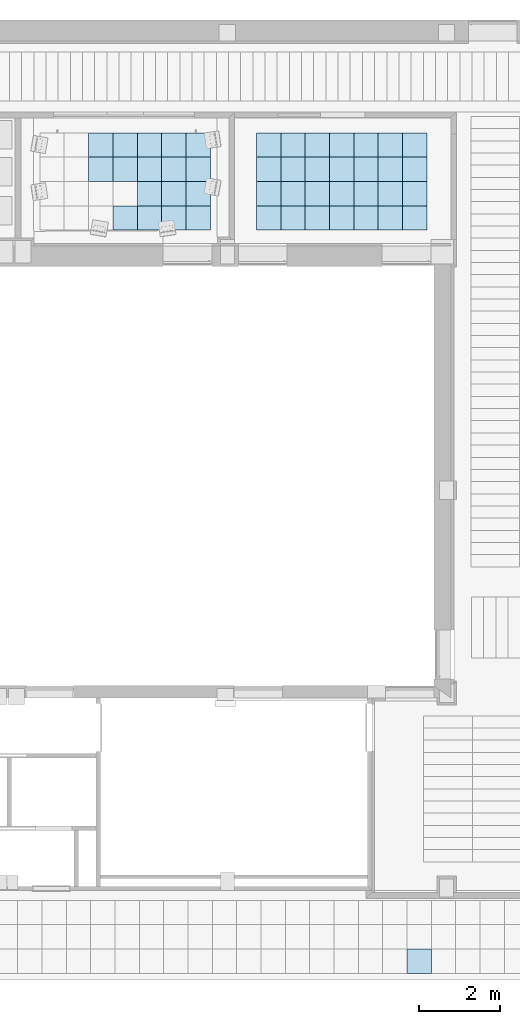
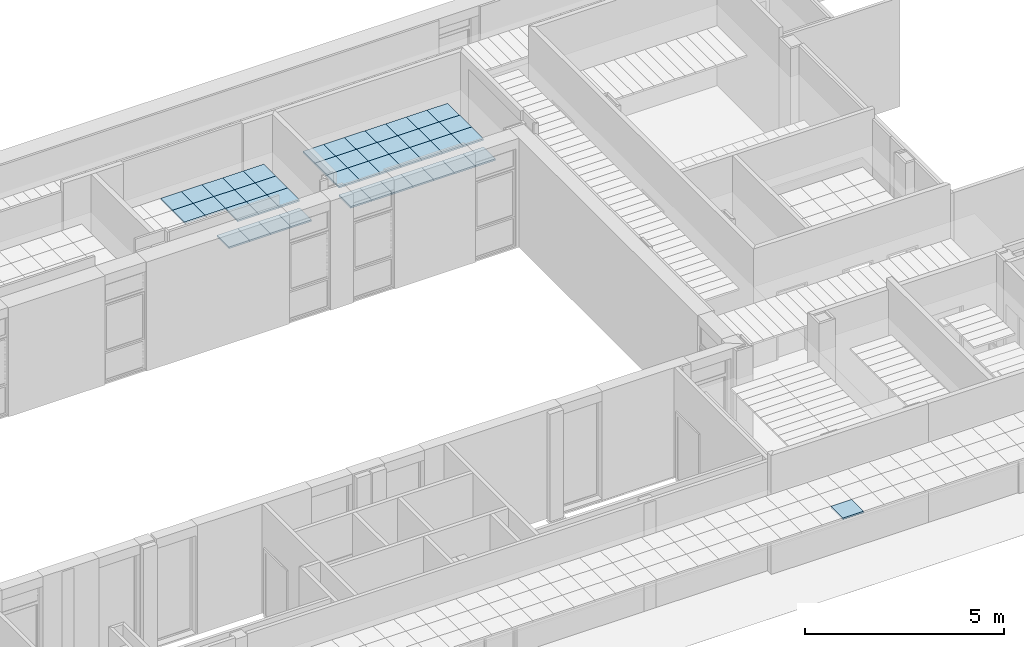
# One storey, part 19 of 60: 46 slabs.
"""IFC2X3 building model written with IfcOpenShell, lengths in millimetres."""

from ifc_helpers import new_model, entity, si_unit, converted_unit, derived_unit, money_unit, direction, frame, origin_with_axes, place, context, subcontext, project, spatial, polyline, outline, extrude, material, layer, layer_set, layer_usage, type_object, element, save


model = new_model("IFC2X3")

# Units and contexts
model_context = context("Model", 3, precision=0.01, world=origin_with_axes(), true_north=direction((0.0, 1.0)))
body_context = subcontext(model_context, "Body", "Model", "MODEL_VIEW")
ifc_project = project(units=[si_unit("LENGTHUNIT", "METRE", prefix="MILLI"), si_unit("AREAUNIT", "SQUARE_METRE"), si_unit("VOLUMEUNIT", "CUBIC_METRE"), converted_unit("PLANEANGLEUNIT", "DEGREE", entity("IfcPlaneAngleMeasure", 0.0174532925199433), si_unit("PLANEANGLEUNIT", "RADIAN"), dimensions=[0, 0, 0, 0, 0, 0, 0]), money_unit("USD"), converted_unit("TIMEUNIT", "Year", entity("IfcTimeMeasure", 31557600.0), si_unit("TIMEUNIT", "SECOND"), dimensions=[0, 0, 1, 0, 0, 0, 0]), si_unit("MASSUNIT", "GRAM", prefix="KILO"), si_unit("THERMODYNAMICTEMPERATUREUNIT", "DEGREE_CELSIUS"), si_unit("LUMINOUSINTENSITYUNIT", "LUMEN"), si_unit("ENERGYUNIT", "JOULE", prefix="MEGA"), derived_unit("THERMALCONDUCTANCEUNIT", [(si_unit("POWERUNIT", "WATT"), 1), (si_unit("LENGTHUNIT", "METRE"), -1), (si_unit("THERMODYNAMICTEMPERATUREUNIT", "KELVIN"), -1)]), derived_unit("SPECIFICHEATCAPACITYUNIT", [(si_unit("ENERGYUNIT", "JOULE"), 1), (si_unit("MASSUNIT", "GRAM", prefix="KILO"), -1), (si_unit("THERMODYNAMICTEMPERATUREUNIT", "KELVIN"), -1)]), derived_unit("MASSDENSITYUNIT", [(si_unit("MASSUNIT", "GRAM", prefix="KILO"), 1), (si_unit("VOLUMEUNIT", "CUBIC_METRE"), -1)])], contexts=[model_context])

# Site, building, storey
site_placement = place(None, origin_with_axes())
site = spatial("IfcSite", under=ifc_project, at=site_placement, Name="Sitio", CompositionType="ELEMENT")
building_placement = place(site_placement, origin_with_axes())
building = spatial("IfcBuilding", under=site, at=building_placement, Name="Construcción", CompositionType="ELEMENT")
storey_placement = place(building_placement, frame((0.0, 0.0, 3650.0), z_axis=(0.0, 0.0, 1.0), x_axis=(1.0, 0.0, 0.0)))
storey = spatial("IfcBuildingStorey", under=building, at=storey_placement, Name="PLANTA 2ª", CompositionType="ELEMENT", Elevation=3650.0)

# Slabs
ifc_material = material(Name="ARQ_CE217_Armstrong 60x60")
ifc_layer = layer(ifc_material, 50.0, ventilated="UNKNOWN")
ifc_layer_set = layer_set([ifc_layer], Name="ARQ_CE217_Armstrong 60x60 50")
ifc_layer_usage_1 = layer_usage(ifc_layer_set, "AXIS3", "NEGATIVE", 50.0)
slab_type = type_object("IfcSlabType", Name="ARQ_CE217_Armstrong 60x60 50", PredefinedType="NOTDEFINED")
slab_1_placement = place(storey_placement, frame((-8820.107268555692, -200.7462075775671, 2500.0), z_axis=(0.0, 0.0, 1.0), x_axis=(1.0, 0.0, 0.0)))
element("IfcSlab", 1, at=slab_1_placement, inside=storey, type_object=slab_type, material=ifc_layer_usage_1, Name="SLA - 026", PredefinedType="NOTDEFINED", context=body_context, shape_type="SweptSolid", body=[
    extrude(outline(polyline([(0.0, 0.0), (599.9999999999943, 0.0), (599.9999999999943, 600.0000000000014), (0.0, 600.0000000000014), (0.0, 0.0)])), frame((0.0, 0.0, -50.0), z_axis=(0.0, 0.0, 1.0), x_axis=(1.0, 0.0, 0.0)), (0.0, 0.0, 1.0), 50.0),
])
ifc_layer_usage_2 = layer_usage(ifc_layer_set, "AXIS3", "NEGATIVE", 50.0)
slab_2_placement = place(storey_placement, frame((-8220.107268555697, -800.7462075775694, 2250.0), z_axis=(0.0, 0.0, 1.0), x_axis=(1.0, 0.0, 0.0)))
element("IfcSlab", 2, at=slab_2_placement, inside=storey, type_object=slab_type, material=ifc_layer_usage_2, Name="SLA - 026", PredefinedType="NOTDEFINED", context=body_context, shape_type="SweptSolid", body=[
    extrude(outline(polyline([(0.0, 0.0), (600.0000000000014, 0.0), (600.0000000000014, 600.0000000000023), (0.0, 600.0000000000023), (0.0, 0.0)])), frame((0.0, 0.0, -50.0), z_axis=(0.0, 0.0, 1.0), x_axis=(1.0, 0.0, 0.0)), (0.0, 0.0, 1.0), 50.0),
])
ifc_layer_usage_3 = layer_usage(ifc_layer_set, "AXIS3", "NEGATIVE", 50.0)
slab_3_placement = place(storey_placement, frame((-9420.107268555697, 399.2537924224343, 2500.0), z_axis=(0.0, 0.0, 1.0), x_axis=(1.0, 0.0, 0.0)))
element("IfcSlab", 3, at=slab_3_placement, inside=storey, type_object=slab_type, material=ifc_layer_usage_3, Name="SLA - 026", PredefinedType="NOTDEFINED", context=body_context, shape_type="SweptSolid", body=[
    extrude(outline(polyline([(0.0, 0.0), (600.000000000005, 0.0), (600.000000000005, 599.9999999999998), (0.0, 599.9999999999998), (0.0, 0.0)])), frame((0.0, 0.0, -50.0), z_axis=(0.0, 0.0, 1.0), x_axis=(1.0, 0.0, 0.0)), (0.0, 0.0, 1.0), 50.0),
])
ifc_layer_usage_4 = layer_usage(ifc_layer_set, "AXIS3", "NEGATIVE", 50.0)
slab_4_placement = place(storey_placement, frame((-9420.107268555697, -800.7462075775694, 2250.0), z_axis=(0.0, 0.0, 1.0), x_axis=(1.0, 0.0, 0.0)))
element("IfcSlab", 4, at=slab_4_placement, inside=storey, type_object=slab_type, material=ifc_layer_usage_4, Name="SLA - 026", PredefinedType="NOTDEFINED", context=body_context, shape_type="SweptSolid", body=[
    extrude(outline(polyline([(0.0, 0.0), (600.000000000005, 0.0), (600.000000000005, 600.0000000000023), (0.0, 600.0000000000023), (0.0, 0.0)])), frame((0.0, 0.0, -50.0), z_axis=(0.0, 0.0, 1.0), x_axis=(1.0, 0.0, 0.0)), (0.0, 0.0, 1.0), 50.0),
])
ifc_layer_usage_5 = layer_usage(ifc_layer_set, "AXIS3", "NEGATIVE", 50.0)
slab_5_placement = place(storey_placement, frame((-8220.107268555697, -200.7462075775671, 2500.0), z_axis=(0.0, 0.0, 1.0), x_axis=(1.0, 0.0, 0.0)))
element("IfcSlab", 5, at=slab_5_placement, inside=storey, type_object=slab_type, material=ifc_layer_usage_5, Name="SLA - 026", PredefinedType="NOTDEFINED", context=body_context, shape_type="SweptSolid", body=[
    extrude(outline(polyline([(0.0, 0.0), (600.0000000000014, 0.0), (600.0000000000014, 600.0000000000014), (0.0, 600.0000000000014), (0.0, 0.0)])), frame((0.0, 0.0, -50.0), z_axis=(0.0, 0.0, 1.0), x_axis=(1.0, 0.0, 0.0)), (0.0, 0.0, 1.0), 50.0),
])
ifc_layer_usage_6 = layer_usage(ifc_layer_set, "AXIS3", "NEGATIVE", 50.0)
slab_6_placement = place(storey_placement, frame((-8820.107268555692, 399.2537924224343, 2500.0), z_axis=(0.0, 0.0, 1.0), x_axis=(1.0, 0.0, 0.0)))
element("IfcSlab", 6, at=slab_6_placement, inside=storey, type_object=slab_type, material=ifc_layer_usage_6, Name="SLA - 026", PredefinedType="NOTDEFINED", context=body_context, shape_type="SweptSolid", body=[
    extrude(outline(polyline([(0.0, 0.0), (599.9999999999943, 0.0), (599.9999999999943, 599.9999999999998), (0.0, 599.9999999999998), (0.0, 0.0)])), frame((0.0, 0.0, -50.0), z_axis=(0.0, 0.0, 1.0), x_axis=(1.0, 0.0, 0.0)), (0.0, 0.0, 1.0), 50.0),
])
ifc_layer_usage_7 = layer_usage(ifc_layer_set, "AXIS3", "NEGATIVE", 50.0)
slab_7_placement = place(storey_placement, frame((-8220.107268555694, 999.2537924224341, 2500.0), z_axis=(0.0, 0.0, 1.0), x_axis=(1.0, 0.0, 0.0)))
element("IfcSlab", 7, at=slab_7_placement, inside=storey, type_object=slab_type, material=ifc_layer_usage_7, Name="SLA - 026", PredefinedType="NOTDEFINED", context=body_context, shape_type="SweptSolid", body=[
    extrude(outline(polyline([(0.0, 0.0), (600.0000000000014, 0.0), (600.0000000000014, 600.0000000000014), (0.0, 600.0000000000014), (0.0, 0.0)])), frame((0.0, 0.0, -50.0), z_axis=(0.0, 0.0, 1.0), x_axis=(1.0, 0.0, 0.0)), (0.0, 0.0, 1.0), 50.0),
])
ifc_layer_usage_8 = layer_usage(ifc_layer_set, "AXIS3", "NEGATIVE", 50.0)
slab_8_placement = place(storey_placement, frame((-8820.107268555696, 999.2537924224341, 2500.0), z_axis=(0.0, 0.0, 1.0), x_axis=(1.0, 0.0, 0.0)))
element("IfcSlab", 8, at=slab_8_placement, inside=storey, type_object=slab_type, material=ifc_layer_usage_8, Name="SLA - 026", PredefinedType="NOTDEFINED", context=body_context, shape_type="SweptSolid", body=[
    extrude(outline(polyline([(0.0, 0.0), (600.0000000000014, 0.0), (600.0000000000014, 600.0000000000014), (0.0, 600.0000000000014), (0.0, 0.0)])), frame((0.0, 0.0, -50.0), z_axis=(0.0, 0.0, 1.0), x_axis=(1.0, 0.0, 0.0)), (0.0, 0.0, 1.0), 50.0),
])
ifc_layer_usage_9 = layer_usage(ifc_layer_set, "AXIS3", "NEGATIVE", 50.0)
slab_9_placement = place(storey_placement, frame((-8220.107268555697, 399.2537924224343, 2500.0), z_axis=(0.0, 0.0, 1.0), x_axis=(1.0, 0.0, 0.0)))
element("IfcSlab", 9, at=slab_9_placement, inside=storey, type_object=slab_type, material=ifc_layer_usage_9, Name="SLA - 026", PredefinedType="NOTDEFINED", context=body_context, shape_type="SweptSolid", body=[
    extrude(outline(polyline([(0.0, 0.0), (600.0000000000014, 0.0), (600.0000000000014, 599.9999999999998), (0.0, 599.9999999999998), (0.0, 0.0)])), frame((0.0, 0.0, -50.0), z_axis=(0.0, 0.0, 1.0), x_axis=(1.0, 0.0, 0.0)), (0.0, 0.0, 1.0), 50.0),
])
ifc_layer_usage_10 = layer_usage(ifc_layer_set, "AXIS3", "NEGATIVE", 50.0)
slab_10_placement = place(storey_placement, frame((-9420.107268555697, 999.2537924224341, 2500.0), z_axis=(0.0, 0.0, 1.0), x_axis=(1.0, 0.0, 0.0)))
element("IfcSlab", 10, at=slab_10_placement, inside=storey, type_object=slab_type, material=ifc_layer_usage_10, Name="SLA - 026", PredefinedType="NOTDEFINED", context=body_context, shape_type="SweptSolid", body=[
    extrude(outline(polyline([(0.0, 0.0), (600.0000000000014, 0.0), (600.0000000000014, 600.0000000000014), (0.0, 600.0000000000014), (0.0, 0.0)])), frame((0.0, 0.0, -50.0), z_axis=(0.0, 0.0, 1.0), x_axis=(1.0, 0.0, 0.0)), (0.0, 0.0, 1.0), 50.0),
])
ifc_layer_usage_11 = layer_usage(ifc_layer_set, "AXIS3", "NEGATIVE", 50.0)
slab_11_placement = place(storey_placement, frame((-9420.107268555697, -200.7462075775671, 2500.0), z_axis=(0.0, 0.0, 1.0), x_axis=(1.0, 0.0, 0.0)))
element("IfcSlab", 11, at=slab_11_placement, inside=storey, type_object=slab_type, material=ifc_layer_usage_11, Name="SLA - 026", PredefinedType="NOTDEFINED", context=body_context, shape_type="SweptSolid", body=[
    extrude(outline(polyline([(0.0, 0.0), (600.000000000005, 0.0), (600.000000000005, 600.0000000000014), (0.0, 600.0000000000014), (0.0, 0.0)])), frame((0.0, 0.0, -50.0), z_axis=(0.0, 0.0, 1.0), x_axis=(1.0, 0.0, 0.0)), (0.0, 0.0, 1.0), 50.0),
])
ifc_layer_usage_12 = layer_usage(ifc_layer_set, "AXIS3", "NEGATIVE", 50.0)
slab_12_placement = place(storey_placement, frame((-10020.10726855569, 999.2537924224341, 2500.0), z_axis=(0.0, 0.0, 1.0), x_axis=(1.0, 0.0, 0.0)))
element("IfcSlab", 12, at=slab_12_placement, inside=storey, type_object=slab_type, material=ifc_layer_usage_12, Name="SLA - 026", PredefinedType="NOTDEFINED", context=body_context, shape_type="SweptSolid", body=[
    extrude(outline(polyline([(0.0, 0.0), (600.0000000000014, 0.0), (600.0000000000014, 600.0000000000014), (0.0, 600.0000000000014), (0.0, 0.0)])), frame((0.0, 0.0, -50.0), z_axis=(0.0, 0.0, 1.0), x_axis=(1.0, 0.0, 0.0)), (0.0, 0.0, 1.0), 50.0),
])
ifc_layer_usage_13 = layer_usage(ifc_layer_set, "AXIS3", "NEGATIVE", 50.0)
slab_13_placement = place(storey_placement, frame((-10020.1072685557, -800.7462075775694, 2250.0), z_axis=(0.0, 0.0, 1.0), x_axis=(1.0, 0.0, 0.0)))
element("IfcSlab", 13, at=slab_13_placement, inside=storey, type_object=slab_type, material=ifc_layer_usage_13, Name="SLA - 026", PredefinedType="NOTDEFINED", context=body_context, shape_type="SweptSolid", body=[
    extrude(outline(polyline([(0.0, 0.0), (600.0000000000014, 0.0), (600.0000000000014, 600.0000000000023), (0.0, 600.0000000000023), (0.0, 0.0)])), frame((0.0, 0.0, -50.0), z_axis=(0.0, 0.0, 1.0), x_axis=(1.0, 0.0, 0.0)), (0.0, 0.0, 1.0), 50.0),
])
ifc_layer_usage_14 = layer_usage(ifc_layer_set, "AXIS3", "NEGATIVE", 50.0)
slab_14_placement = place(storey_placement, frame((-10620.1072685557, 999.2537924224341, 2500.0), z_axis=(0.0, 0.0, 1.0), x_axis=(1.0, 0.0, 0.0)))
element("IfcSlab", 14, at=slab_14_placement, inside=storey, type_object=slab_type, material=ifc_layer_usage_14, Name="SLA - 026", PredefinedType="NOTDEFINED", context=body_context, shape_type="SweptSolid", body=[
    extrude(outline(polyline([(0.0, 0.0), (600.0000000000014, 0.0), (600.0000000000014, 600.0000000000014), (0.0, 600.0000000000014), (0.0, 0.0)])), frame((0.0, 0.0, -50.0), z_axis=(0.0, 0.0, 1.0), x_axis=(1.0, 0.0, 0.0)), (0.0, 0.0, 1.0), 50.0),
])
ifc_layer_usage_15 = layer_usage(ifc_layer_set, "AXIS3", "NEGATIVE", 50.0)
slab_15_placement = place(storey_placement, frame((-8820.107268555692, -800.7462075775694, 2250.0), z_axis=(0.0, 0.0, 1.0), x_axis=(1.0, 0.0, 0.0)))
element("IfcSlab", 15, at=slab_15_placement, inside=storey, type_object=slab_type, material=ifc_layer_usage_15, Name="SLA - 026", PredefinedType="NOTDEFINED", context=body_context, shape_type="SweptSolid", body=[
    extrude(outline(polyline([(0.0, 0.0), (599.9999999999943, 0.0), (599.9999999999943, 600.0000000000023), (0.0, 600.0000000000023), (0.0, 0.0)])), frame((0.0, 0.0, -50.0), z_axis=(0.0, 0.0, 1.0), x_axis=(1.0, 0.0, 0.0)), (0.0, 0.0, 1.0), 50.0),
])
ifc_layer_usage_16 = layer_usage(ifc_layer_set, "AXIS3", "NEGATIVE", 50.0)
slab_16_placement = place(storey_placement, frame((-10020.1072685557, 399.2537924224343, 2500.0), z_axis=(0.0, 0.0, 1.0), x_axis=(1.0, 0.0, 0.0)))
element("IfcSlab", 16, at=slab_16_placement, inside=storey, type_object=slab_type, material=ifc_layer_usage_16, Name="SLA - 026", PredefinedType="NOTDEFINED", context=body_context, shape_type="SweptSolid", body=[
    extrude(outline(polyline([(0.0, 0.0), (600.0000000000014, 0.0), (600.0000000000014, 599.9999999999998), (0.0, 599.9999999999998), (0.0, 0.0)])), frame((0.0, 0.0, -50.0), z_axis=(0.0, 0.0, 1.0), x_axis=(1.0, 0.0, 0.0)), (0.0, 0.0, 1.0), 50.0),
])
ifc_layer_usage_17 = layer_usage(ifc_layer_set, "AXIS3", "NEGATIVE", 50.0)
slab_17_placement = place(storey_placement, frame((-10620.10726855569, 399.2537924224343, 2500.0), z_axis=(0.0, 0.0, 1.0), x_axis=(1.0, 0.0, 0.0)))
element("IfcSlab", 17, at=slab_17_placement, inside=storey, type_object=slab_type, material=ifc_layer_usage_17, Name="SLA - 026", PredefinedType="NOTDEFINED", context=body_context, shape_type="SweptSolid", body=[
    extrude(outline(polyline([(0.0, 0.0), (599.9999999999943, 0.0), (599.9999999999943, 599.9999999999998), (0.0, 599.9999999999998), (0.0, 0.0)])), frame((0.0, 0.0, -50.0), z_axis=(0.0, 0.0, 1.0), x_axis=(1.0, 0.0, 0.0)), (0.0, 0.0, 1.0), 50.0),
])
ifc_layer_usage_18 = layer_usage(ifc_layer_set, "AXIS3", "NEGATIVE", 50.0)
slab_18_placement = place(storey_placement, frame((-4080.493150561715, -800.7462075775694, 2250.0), z_axis=(0.0, 0.0, 1.0), x_axis=(1.0, 0.0, 0.0)))
element("IfcSlab", 18, at=slab_18_placement, inside=storey, type_object=slab_type, material=ifc_layer_usage_18, Name="SLA - 026", PredefinedType="NOTDEFINED", context=body_context, shape_type="SweptSolid", body=[
    extrude(outline(polyline([(0.0, 0.0), (600.000000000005, 0.0), (600.000000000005, 600.0000000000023), (0.0, 600.0000000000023), (0.0, 0.0)])), frame((0.0, 0.0, -50.0), z_axis=(0.0, 0.0, 1.0), x_axis=(1.0, 0.0, 0.0)), (0.0, 0.0, 1.0), 50.0),
])
ifc_layer_usage_19 = layer_usage(ifc_layer_set, "AXIS3", "NEGATIVE", 50.0)
slab_19_placement = place(storey_placement, frame((-2880.493150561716, -200.7462075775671, 2500.0), z_axis=(0.0, 0.0, 1.0), x_axis=(1.0, 0.0, 0.0)))
element("IfcSlab", 19, at=slab_19_placement, inside=storey, type_object=slab_type, material=ifc_layer_usage_19, Name="SLA - 026", PredefinedType="NOTDEFINED", context=body_context, shape_type="SweptSolid", body=[
    extrude(outline(polyline([(0.0, 0.0), (600.0000000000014, 0.0), (600.0000000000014, 600.0000000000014), (0.0, 600.0000000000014), (0.0, 0.0)])), frame((0.0, 0.0, -50.0), z_axis=(0.0, 0.0, 1.0), x_axis=(1.0, 0.0, 0.0)), (0.0, 0.0, 1.0), 50.0),
])
ifc_layer_usage_20 = layer_usage(ifc_layer_set, "AXIS3", "NEGATIVE", 50.0)
slab_20_placement = place(storey_placement, frame((-2880.493150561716, -800.7462075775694, 2250.0), z_axis=(0.0, 0.0, 1.0), x_axis=(1.0, 0.0, 0.0)))
element("IfcSlab", 20, at=slab_20_placement, inside=storey, type_object=slab_type, material=ifc_layer_usage_20, Name="SLA - 026", PredefinedType="NOTDEFINED", context=body_context, shape_type="SweptSolid", body=[
    extrude(outline(polyline([(0.0, 0.0), (600.0000000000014, 0.0), (600.0000000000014, 600.0000000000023), (0.0, 600.0000000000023), (0.0, 0.0)])), frame((0.0, 0.0, -50.0), z_axis=(0.0, 0.0, 1.0), x_axis=(1.0, 0.0, 0.0)), (0.0, 0.0, 1.0), 50.0),
])
ifc_layer_usage_21 = layer_usage(ifc_layer_set, "AXIS3", "NEGATIVE", 50.0)
slab_21_placement = place(storey_placement, frame((-2880.493150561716, 399.2537924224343, 2500.0), z_axis=(0.0, 0.0, 1.0), x_axis=(1.0, 0.0, 0.0)))
element("IfcSlab", 21, at=slab_21_placement, inside=storey, type_object=slab_type, material=ifc_layer_usage_21, Name="SLA - 026", PredefinedType="NOTDEFINED", context=body_context, shape_type="SweptSolid", body=[
    extrude(outline(polyline([(0.0, 0.0), (600.0000000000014, 0.0), (600.0000000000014, 599.9999999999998), (0.0, 599.9999999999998), (0.0, 0.0)])), frame((0.0, 0.0, -50.0), z_axis=(0.0, 0.0, 1.0), x_axis=(1.0, 0.0, 0.0)), (0.0, 0.0, 1.0), 50.0),
])
ifc_layer_usage_22 = layer_usage(ifc_layer_set, "AXIS3", "NEGATIVE", 50.0)
slab_22_placement = place(storey_placement, frame((-4680.493150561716, -800.7462075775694, 2250.0), z_axis=(0.0, 0.0, 1.0), x_axis=(1.0, 0.0, 0.0)))
element("IfcSlab", 22, at=slab_22_placement, inside=storey, type_object=slab_type, material=ifc_layer_usage_22, Name="SLA - 026", PredefinedType="NOTDEFINED", context=body_context, shape_type="SweptSolid", body=[
    extrude(outline(polyline([(0.0, 0.0), (600.0000000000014, 0.0), (600.0000000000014, 600.0000000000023), (0.0, 600.0000000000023), (0.0, 0.0)])), frame((0.0, 0.0, -50.0), z_axis=(0.0, 0.0, 1.0), x_axis=(1.0, 0.0, 0.0)), (0.0, 0.0, 1.0), 50.0),
])
ifc_layer_usage_23 = layer_usage(ifc_layer_set, "AXIS3", "NEGATIVE", 50.0)
slab_23_placement = place(storey_placement, frame((-3480.49315056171, -800.7462075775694, 2250.0), z_axis=(0.0, 0.0, 1.0), x_axis=(1.0, 0.0, 0.0)))
element("IfcSlab", 23, at=slab_23_placement, inside=storey, type_object=slab_type, material=ifc_layer_usage_23, Name="SLA - 026", PredefinedType="NOTDEFINED", context=body_context, shape_type="SweptSolid", body=[
    extrude(outline(polyline([(0.0, 0.0), (599.9999999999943, 0.0), (599.9999999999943, 600.0000000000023), (0.0, 600.0000000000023), (0.0, 0.0)])), frame((0.0, 0.0, -50.0), z_axis=(0.0, 0.0, 1.0), x_axis=(1.0, 0.0, 0.0)), (0.0, 0.0, 1.0), 50.0),
])
ifc_layer_usage_24 = layer_usage(ifc_layer_set, "AXIS3", "NEGATIVE", 50.0)
slab_24_placement = place(storey_placement, frame((-4680.493150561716, 399.2537924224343, 2500.0), z_axis=(0.0, 0.0, 1.0), x_axis=(1.0, 0.0, 0.0)))
element("IfcSlab", 24, at=slab_24_placement, inside=storey, type_object=slab_type, material=ifc_layer_usage_24, Name="SLA - 026", PredefinedType="NOTDEFINED", context=body_context, shape_type="SweptSolid", body=[
    extrude(outline(polyline([(0.0, 0.0), (600.0000000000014, 0.0), (600.0000000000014, 599.9999999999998), (0.0, 599.9999999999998), (0.0, 0.0)])), frame((0.0, 0.0, -50.0), z_axis=(0.0, 0.0, 1.0), x_axis=(1.0, 0.0, 0.0)), (0.0, 0.0, 1.0), 50.0),
])
ifc_layer_usage_25 = layer_usage(ifc_layer_set, "AXIS3", "NEGATIVE", 50.0)
slab_25_placement = place(storey_placement, frame((-4680.493150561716, -200.7462075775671, 2500.0), z_axis=(0.0, 0.0, 1.0), x_axis=(1.0, 0.0, 0.0)))
element("IfcSlab", 25, at=slab_25_placement, inside=storey, type_object=slab_type, material=ifc_layer_usage_25, Name="SLA - 026", PredefinedType="NOTDEFINED", context=body_context, shape_type="SweptSolid", body=[
    extrude(outline(polyline([(0.0, 0.0), (600.0000000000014, 0.0), (600.0000000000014, 600.0000000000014), (0.0, 600.0000000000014), (0.0, 0.0)])), frame((0.0, 0.0, -50.0), z_axis=(0.0, 0.0, 1.0), x_axis=(1.0, 0.0, 0.0)), (0.0, 0.0, 1.0), 50.0),
])
ifc_layer_usage_26 = layer_usage(ifc_layer_set, "AXIS3", "NEGATIVE", 50.0)
slab_26_placement = place(storey_placement, frame((-3480.49315056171, -200.7462075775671, 2500.0), z_axis=(0.0, 0.0, 1.0), x_axis=(1.0, 0.0, 0.0)))
element("IfcSlab", 26, at=slab_26_placement, inside=storey, type_object=slab_type, material=ifc_layer_usage_26, Name="SLA - 026", PredefinedType="NOTDEFINED", context=body_context, shape_type="SweptSolid", body=[
    extrude(outline(polyline([(0.0, 0.0), (599.9999999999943, 0.0), (599.9999999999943, 600.0000000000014), (0.0, 600.0000000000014), (0.0, 0.0)])), frame((0.0, 0.0, -50.0), z_axis=(0.0, 0.0, 1.0), x_axis=(1.0, 0.0, 0.0)), (0.0, 0.0, 1.0), 50.0),
])
ifc_layer_usage_27 = layer_usage(ifc_layer_set, "AXIS3", "NEGATIVE", 50.0)
slab_27_placement = place(storey_placement, frame((-4080.493150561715, 399.2537924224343, 2500.0), z_axis=(0.0, 0.0, 1.0), x_axis=(1.0, 0.0, 0.0)))
element("IfcSlab", 27, at=slab_27_placement, inside=storey, type_object=slab_type, material=ifc_layer_usage_27, Name="SLA - 026", PredefinedType="NOTDEFINED", context=body_context, shape_type="SweptSolid", body=[
    extrude(outline(polyline([(0.0, 0.0), (600.000000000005, 0.0), (600.000000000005, 599.9999999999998), (0.0, 599.9999999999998), (0.0, 0.0)])), frame((0.0, 0.0, -50.0), z_axis=(0.0, 0.0, 1.0), x_axis=(1.0, 0.0, 0.0)), (0.0, 0.0, 1.0), 50.0),
])
ifc_layer_usage_28 = layer_usage(ifc_layer_set, "AXIS3", "NEGATIVE", 50.0)
slab_28_placement = place(storey_placement, frame((-4080.493150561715, -200.7462075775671, 2500.0), z_axis=(0.0, 0.0, 1.0), x_axis=(1.0, 0.0, 0.0)))
element("IfcSlab", 28, at=slab_28_placement, inside=storey, type_object=slab_type, material=ifc_layer_usage_28, Name="SLA - 026", PredefinedType="NOTDEFINED", context=body_context, shape_type="SweptSolid", body=[
    extrude(outline(polyline([(0.0, 0.0), (600.000000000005, 0.0), (600.000000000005, 600.0000000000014), (0.0, 600.0000000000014), (0.0, 0.0)])), frame((0.0, 0.0, -50.0), z_axis=(0.0, 0.0, 1.0), x_axis=(1.0, 0.0, 0.0)), (0.0, 0.0, 1.0), 50.0),
])
ifc_layer_usage_29 = layer_usage(ifc_layer_set, "AXIS3", "NEGATIVE", 50.0)
slab_29_placement = place(storey_placement, frame((-5880.493150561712, -800.7462075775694, 2250.0), z_axis=(0.0, 0.0, 1.0), x_axis=(1.0, 0.0, 0.0)))
element("IfcSlab", 29, at=slab_29_placement, inside=storey, type_object=slab_type, material=ifc_layer_usage_29, Name="SLA - 026", PredefinedType="NOTDEFINED", context=body_context, shape_type="SweptSolid", body=[
    extrude(outline(polyline([(0.0, 0.0), (600.0000000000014, 0.0), (600.0000000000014, 600.0000000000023), (0.0, 600.0000000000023), (0.0, 0.0)])), frame((0.0, 0.0, -50.0), z_axis=(0.0, 0.0, 1.0), x_axis=(1.0, 0.0, 0.0)), (0.0, 0.0, 1.0), 50.0),
])
ifc_layer_usage_30 = layer_usage(ifc_layer_set, "AXIS3", "NEGATIVE", 50.0)
slab_30_placement = place(storey_placement, frame((-5280.493150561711, -200.7462075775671, 2500.0), z_axis=(0.0, 0.0, 1.0), x_axis=(1.0, 0.0, 0.0)))
element("IfcSlab", 30, at=slab_30_placement, inside=storey, type_object=slab_type, material=ifc_layer_usage_30, Name="SLA - 026", PredefinedType="NOTDEFINED", context=body_context, shape_type="SweptSolid", body=[
    extrude(outline(polyline([(0.0, 0.0), (599.9999999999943, 0.0), (599.9999999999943, 600.0000000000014), (0.0, 600.0000000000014), (0.0, 0.0)])), frame((0.0, 0.0, -50.0), z_axis=(0.0, 0.0, 1.0), x_axis=(1.0, 0.0, 0.0)), (0.0, 0.0, 1.0), 50.0),
])
ifc_layer_usage_31 = layer_usage(ifc_layer_set, "AXIS3", "NEGATIVE", 50.0)
slab_31_placement = place(storey_placement, frame((-3480.49315056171, 399.2537924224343, 2500.0), z_axis=(0.0, 0.0, 1.0), x_axis=(1.0, 0.0, 0.0)))
element("IfcSlab", 31, at=slab_31_placement, inside=storey, type_object=slab_type, material=ifc_layer_usage_31, Name="SLA - 026", PredefinedType="NOTDEFINED", context=body_context, shape_type="SweptSolid", body=[
    extrude(outline(polyline([(0.0, 0.0), (599.9999999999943, 0.0), (599.9999999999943, 599.9999999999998), (0.0, 599.9999999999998), (0.0, 0.0)])), frame((0.0, 0.0, -50.0), z_axis=(0.0, 0.0, 1.0), x_axis=(1.0, 0.0, 0.0)), (0.0, 0.0, 1.0), 50.0),
])
ifc_layer_usage_32 = layer_usage(ifc_layer_set, "AXIS3", "NEGATIVE", 50.0)
slab_32_placement = place(storey_placement, frame((-5880.493150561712, -200.7462075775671, 2500.0), z_axis=(0.0, 0.0, 1.0), x_axis=(1.0, 0.0, 0.0)))
element("IfcSlab", 32, at=slab_32_placement, inside=storey, type_object=slab_type, material=ifc_layer_usage_32, Name="SLA - 026", PredefinedType="NOTDEFINED", context=body_context, shape_type="SweptSolid", body=[
    extrude(outline(polyline([(0.0, 0.0), (600.0000000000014, 0.0), (600.0000000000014, 600.0000000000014), (0.0, 600.0000000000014), (0.0, 0.0)])), frame((0.0, 0.0, -50.0), z_axis=(0.0, 0.0, 1.0), x_axis=(1.0, 0.0, 0.0)), (0.0, 0.0, 1.0), 50.0),
])
ifc_layer_usage_33 = layer_usage(ifc_layer_set, "AXIS3", "NEGATIVE", 50.0)
slab_33_placement = place(storey_placement, frame((-6480.493150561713, 399.2537924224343, 2500.0), z_axis=(0.0, 0.0, 1.0), x_axis=(1.0, 0.0, 0.0)))
element("IfcSlab", 33, at=slab_33_placement, inside=storey, type_object=slab_type, material=ifc_layer_usage_33, Name="SLA - 026", PredefinedType="NOTDEFINED", context=body_context, shape_type="SweptSolid", body=[
    extrude(outline(polyline([(0.0, 0.0), (600.0000000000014, 0.0), (600.0000000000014, 599.9999999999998), (0.0, 599.9999999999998), (0.0, 0.0)])), frame((0.0, 0.0, -50.0), z_axis=(0.0, 0.0, 1.0), x_axis=(1.0, 0.0, 0.0)), (0.0, 0.0, 1.0), 50.0),
])
ifc_layer_usage_34 = layer_usage(ifc_layer_set, "AXIS3", "NEGATIVE", 50.0)
slab_34_placement = place(storey_placement, frame((-6480.493150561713, -200.7462075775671, 2500.0), z_axis=(0.0, 0.0, 1.0), x_axis=(1.0, 0.0, 0.0)))
element("IfcSlab", 34, at=slab_34_placement, inside=storey, type_object=slab_type, material=ifc_layer_usage_34, Name="SLA - 026", PredefinedType="NOTDEFINED", context=body_context, shape_type="SweptSolid", body=[
    extrude(outline(polyline([(0.0, 0.0), (600.0000000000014, 0.0), (600.0000000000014, 600.0000000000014), (0.0, 600.0000000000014), (0.0, 0.0)])), frame((0.0, 0.0, -50.0), z_axis=(0.0, 0.0, 1.0), x_axis=(1.0, 0.0, 0.0)), (0.0, 0.0, 1.0), 50.0),
])
ifc_layer_usage_35 = layer_usage(ifc_layer_set, "AXIS3", "NEGATIVE", 50.0)
slab_35_placement = place(storey_placement, frame((-6480.493150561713, -800.7462075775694, 2250.0), z_axis=(0.0, 0.0, 1.0), x_axis=(1.0, 0.0, 0.0)))
element("IfcSlab", 35, at=slab_35_placement, inside=storey, type_object=slab_type, material=ifc_layer_usage_35, Name="SLA - 026", PredefinedType="NOTDEFINED", context=body_context, shape_type="SweptSolid", body=[
    extrude(outline(polyline([(0.0, 0.0), (600.0000000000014, 0.0), (600.0000000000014, 600.0000000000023), (0.0, 600.0000000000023), (0.0, 0.0)])), frame((0.0, 0.0, -50.0), z_axis=(0.0, 0.0, 1.0), x_axis=(1.0, 0.0, 0.0)), (0.0, 0.0, 1.0), 50.0),
])
ifc_layer_usage_36 = layer_usage(ifc_layer_set, "AXIS3", "NEGATIVE", 50.0)
slab_36_placement = place(storey_placement, frame((-5280.493150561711, -800.7462075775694, 2250.0), z_axis=(0.0, 0.0, 1.0), x_axis=(1.0, 0.0, 0.0)))
element("IfcSlab", 36, at=slab_36_placement, inside=storey, type_object=slab_type, material=ifc_layer_usage_36, Name="SLA - 026", PredefinedType="NOTDEFINED", context=body_context, shape_type="SweptSolid", body=[
    extrude(outline(polyline([(0.0, 0.0), (599.9999999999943, 0.0), (599.9999999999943, 600.0000000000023), (0.0, 600.0000000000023), (0.0, 0.0)])), frame((0.0, 0.0, -50.0), z_axis=(0.0, 0.0, 1.0), x_axis=(1.0, 0.0, 0.0)), (0.0, 0.0, 1.0), 50.0),
])
ifc_layer_usage_37 = layer_usage(ifc_layer_set, "AXIS3", "NEGATIVE", 50.0)
slab_37_placement = place(storey_placement, frame((-5880.493150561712, 399.2537924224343, 2500.0), z_axis=(0.0, 0.0, 1.0), x_axis=(1.0, 0.0, 0.0)))
element("IfcSlab", 37, at=slab_37_placement, inside=storey, type_object=slab_type, material=ifc_layer_usage_37, Name="SLA - 026", PredefinedType="NOTDEFINED", context=body_context, shape_type="SweptSolid", body=[
    extrude(outline(polyline([(0.0, 0.0), (600.0000000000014, 0.0), (600.0000000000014, 599.9999999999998), (0.0, 599.9999999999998), (0.0, 0.0)])), frame((0.0, 0.0, -50.0), z_axis=(0.0, 0.0, 1.0), x_axis=(1.0, 0.0, 0.0)), (0.0, 0.0, 1.0), 50.0),
])
ifc_layer_usage_38 = layer_usage(ifc_layer_set, "AXIS3", "NEGATIVE", 50.0)
slab_38_placement = place(storey_placement, frame((-5280.493150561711, 399.2537924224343, 2500.0), z_axis=(0.0, 0.0, 1.0), x_axis=(1.0, 0.0, 0.0)))
element("IfcSlab", 38, at=slab_38_placement, inside=storey, type_object=slab_type, material=ifc_layer_usage_38, Name="SLA - 026", PredefinedType="NOTDEFINED", context=body_context, shape_type="SweptSolid", body=[
    extrude(outline(polyline([(0.0, 0.0), (599.9999999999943, 0.0), (599.9999999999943, 599.9999999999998), (0.0, 599.9999999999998), (0.0, 0.0)])), frame((0.0, 0.0, -50.0), z_axis=(0.0, 0.0, 1.0), x_axis=(1.0, 0.0, 0.0)), (0.0, 0.0, 1.0), 50.0),
])
ifc_layer_usage_39 = layer_usage(ifc_layer_set, "AXIS3", "NEGATIVE", 50.0)
slab_39_placement = place(storey_placement, frame((-6480.493150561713, 999.2537924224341, 2500.0), z_axis=(0.0, 0.0, 1.0), x_axis=(1.0, 0.0, 0.0)))
element("IfcSlab", 39, at=slab_39_placement, inside=storey, type_object=slab_type, material=ifc_layer_usage_39, Name="SLA - 026", PredefinedType="NOTDEFINED", context=body_context, shape_type="SweptSolid", body=[
    extrude(outline(polyline([(0.0, 0.0), (600.0000000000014, 0.0), (600.0000000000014, 600.0000000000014), (0.0, 600.0000000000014), (0.0, 0.0)])), frame((0.0, 0.0, -50.0), z_axis=(0.0, 0.0, 1.0), x_axis=(1.0, 0.0, 0.0)), (0.0, 0.0, 1.0), 50.0),
])
ifc_layer_usage_40 = layer_usage(ifc_layer_set, "AXIS3", "NEGATIVE", 50.0)
slab_40_placement = place(storey_placement, frame((-5880.493150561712, 999.2537924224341, 2500.0), z_axis=(0.0, 0.0, 1.0), x_axis=(1.0, 0.0, 0.0)))
element("IfcSlab", 40, at=slab_40_placement, inside=storey, type_object=slab_type, material=ifc_layer_usage_40, Name="SLA - 026", PredefinedType="NOTDEFINED", context=body_context, shape_type="SweptSolid", body=[
    extrude(outline(polyline([(0.0, 0.0), (600.0000000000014, 0.0), (600.0000000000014, 600.0000000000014), (0.0, 600.0000000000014), (0.0, 0.0)])), frame((0.0, 0.0, -50.0), z_axis=(0.0, 0.0, 1.0), x_axis=(1.0, 0.0, 0.0)), (0.0, 0.0, 1.0), 50.0),
])
ifc_layer_usage_41 = layer_usage(ifc_layer_set, "AXIS3", "NEGATIVE", 50.0)
slab_41_placement = place(storey_placement, frame((-5280.493150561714, 999.2537924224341, 2500.0), z_axis=(0.0, 0.0, 1.0), x_axis=(1.0, 0.0, 0.0)))
element("IfcSlab", 41, at=slab_41_placement, inside=storey, type_object=slab_type, material=ifc_layer_usage_41, Name="SLA - 026", PredefinedType="NOTDEFINED", context=body_context, shape_type="SweptSolid", body=[
    extrude(outline(polyline([(0.0, 0.0), (600.0000000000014, 0.0), (600.0000000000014, 600.0000000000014), (0.0, 600.0000000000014), (0.0, 0.0)])), frame((0.0, 0.0, -50.0), z_axis=(0.0, 0.0, 1.0), x_axis=(1.0, 0.0, 0.0)), (0.0, 0.0, 1.0), 50.0),
])
ifc_layer_usage_42 = layer_usage(ifc_layer_set, "AXIS3", "NEGATIVE", 50.0)
slab_42_placement = place(storey_placement, frame((-4680.493150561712, 999.2537924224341, 2500.0), z_axis=(0.0, 0.0, 1.0), x_axis=(1.0, 0.0, 0.0)))
element("IfcSlab", 42, at=slab_42_placement, inside=storey, type_object=slab_type, material=ifc_layer_usage_42, Name="SLA - 026", PredefinedType="NOTDEFINED", context=body_context, shape_type="SweptSolid", body=[
    extrude(outline(polyline([(0.0, 0.0), (600.0000000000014, 0.0), (600.0000000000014, 600.0000000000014), (0.0, 600.0000000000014), (0.0, 0.0)])), frame((0.0, 0.0, -50.0), z_axis=(0.0, 0.0, 1.0), x_axis=(1.0, 0.0, 0.0)), (0.0, 0.0, 1.0), 50.0),
])
ifc_layer_usage_43 = layer_usage(ifc_layer_set, "AXIS3", "NEGATIVE", 50.0)
slab_43_placement = place(storey_placement, frame((-3480.493150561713, 999.2537924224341, 2500.0), z_axis=(0.0, 0.0, 1.0), x_axis=(1.0, 0.0, 0.0)))
element("IfcSlab", 43, at=slab_43_placement, inside=storey, type_object=slab_type, material=ifc_layer_usage_43, Name="SLA - 026", PredefinedType="NOTDEFINED", context=body_context, shape_type="SweptSolid", body=[
    extrude(outline(polyline([(0.0, 0.0), (600.0000000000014, 0.0), (600.0000000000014, 600.0000000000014), (0.0, 600.0000000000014), (0.0, 0.0)])), frame((0.0, 0.0, -50.0), z_axis=(0.0, 0.0, 1.0), x_axis=(1.0, 0.0, 0.0)), (0.0, 0.0, 1.0), 50.0),
])
ifc_layer_usage_44 = layer_usage(ifc_layer_set, "AXIS3", "NEGATIVE", 50.0)
slab_44_placement = place(storey_placement, frame((-4080.493150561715, 999.2537924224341, 2500.0), z_axis=(0.0, 0.0, 1.0), x_axis=(1.0, 0.0, 0.0)))
element("IfcSlab", 44, at=slab_44_placement, inside=storey, type_object=slab_type, material=ifc_layer_usage_44, Name="SLA - 026", PredefinedType="NOTDEFINED", context=body_context, shape_type="SweptSolid", body=[
    extrude(outline(polyline([(0.0, 0.0), (600.0000000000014, 0.0), (600.0000000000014, 600.0000000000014), (0.0, 600.0000000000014), (0.0, 0.0)])), frame((0.0, 0.0, -50.0), z_axis=(0.0, 0.0, 1.0), x_axis=(1.0, 0.0, 0.0)), (0.0, 0.0, 1.0), 50.0),
])
ifc_layer_usage_45 = layer_usage(ifc_layer_set, "AXIS3", "NEGATIVE", 50.0)
slab_45_placement = place(storey_placement, frame((-2880.493150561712, 999.2537924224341, 2500.0), z_axis=(0.0, 0.0, 1.0), x_axis=(1.0, 0.0, 0.0)))
element("IfcSlab", 45, at=slab_45_placement, inside=storey, type_object=slab_type, material=ifc_layer_usage_45, Name="SLA - 026", PredefinedType="NOTDEFINED", context=body_context, shape_type="SweptSolid", body=[
    extrude(outline(polyline([(0.0, 0.0), (600.0000000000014, 0.0), (600.0000000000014, 600.0000000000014), (0.0, 600.0000000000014), (0.0, 0.0)])), frame((0.0, 0.0, -50.0), z_axis=(0.0, 0.0, 1.0), x_axis=(1.0, 0.0, 0.0)), (0.0, 0.0, 1.0), 50.0),
])
ifc_layer_usage_46 = layer_usage(ifc_layer_set, "AXIS3", "NEGATIVE", 50.0)
slab_46_placement = place(storey_placement, frame((-2769.703283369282, -19121.97576450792, 2500.0), z_axis=(0.0, 0.0, 1.0), x_axis=(1.0, 0.0, 0.0)))
element("IfcSlab", 46, at=slab_46_placement, inside=storey, type_object=slab_type, material=ifc_layer_usage_46, Name="SLA - 026", PredefinedType="NOTDEFINED", context=body_context, shape_type="SweptSolid", body=[
    extrude(outline(polyline([(0.0, 0.0), (600.0000000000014, 0.0), (600.0000000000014, 600.0000000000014), (0.0, 600.0000000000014), (0.0, 0.0)])), frame((0.0, 0.0, -50.0), z_axis=(0.0, 0.0, 1.0), x_axis=(1.0, 0.0, 0.0)), (0.0, 0.0, 1.0), 50.0),
])

save(model, "model.ifc")
